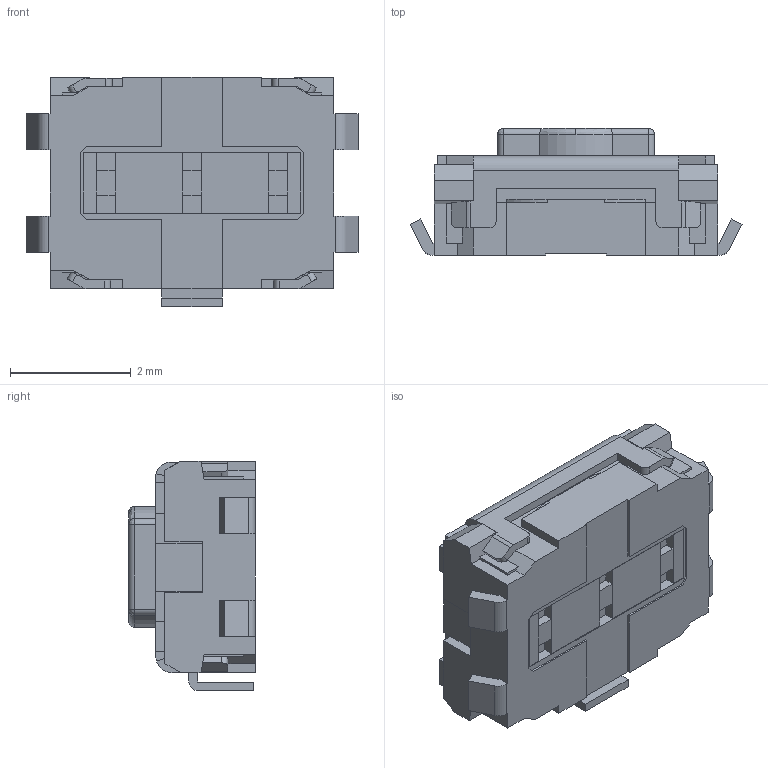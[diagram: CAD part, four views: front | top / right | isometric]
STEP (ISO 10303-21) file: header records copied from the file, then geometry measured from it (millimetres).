
FILE_DESCRIPTION (( 'STEP AP203' ), '1' );
FILE_NAME ('EVQP2R02M.STEP', '2013-09-09T05:07:06', ( '' ), ( '' ), 'SwSTEP 2.0', 'SolidWorks 2012', '' );
FILE_SCHEMA (( 'CONFIG_CONTROL_DESIGN' ));
Length unit declared in the file: millimetre
Products named in the file (1): EVQP2R02M
Bounding box: 5.5 x 2.1 x 3.8 mm (x, y, z)
Volume: 27.5 mm3; surface area: 82.4 mm2
Topology: 3 solids, 3 shells, 281 faces, 827 edges, 542 vertices
Faces by surface type: plane 230, cylinder 41, bspline 7, cone 3
Entity records: 9404 total; most frequent: CARTESIAN_POINT 1848, ORIENTED_EDGE 1646, DIRECTION 1448, EDGE_CURVE 823, LINE 708, VECTOR 708, VERTEX_POINT 542, AXIS2_PLACEMENT_3D 370
